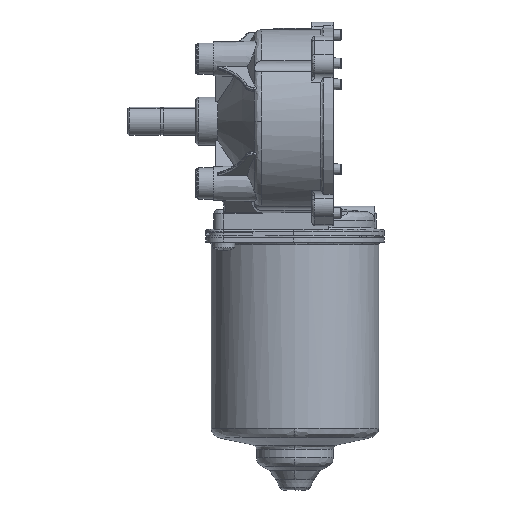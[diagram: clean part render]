
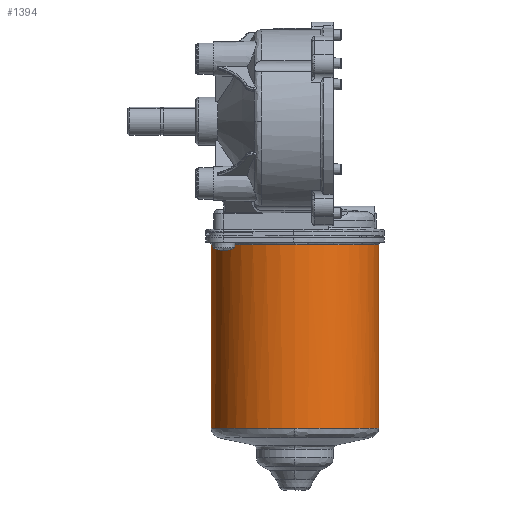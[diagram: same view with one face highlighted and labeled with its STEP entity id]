
A CAD part, front view. The second image highlights one B-rep face of the part: STEP entity #1394.
In plain terms, the highlighted cylindrical face has radius 29.599 mm (diameter 59.199 mm), a partial arc.
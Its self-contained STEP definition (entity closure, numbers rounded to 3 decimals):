
#899 = EDGE_LOOP ( 'NONE', ( #10580, #10876, #10179, #10550, #10863, #9947 ) ) ;
#1394 = ADVANCED_FACE ( 'NONE', ( #12645 ), #13309, .T. ) ;
#5483 = EDGE_CURVE ( 'NONE', #9325, #9488, #12464, .T. ) ;
#5530 = AXIS2_PLACEMENT_3D ( 'NONE', #7653, #7655, #7656 ) ;
#5978 = AXIS2_PLACEMENT_3D ( 'NONE', #22645, #22421, #20189 ) ;
#6404 = CARTESIAN_POINT ( 'NONE',  ( 24.999, 1.401, -108.318 ) ) ;
#6437 = CARTESIAN_POINT ( 'NONE',  ( -4.6, 31.001, -43.7 ) ) ;
#6556 = CARTESIAN_POINT ( 'NONE',  ( -4.6, 31.001, -108.318 ) ) ;
#6897 = CARTESIAN_POINT ( 'NONE',  ( 24.999, 1.401, -43.7 ) ) ;
#6973 = CARTESIAN_POINT ( 'NONE',  ( 54.599, 31.001, -108.318 ) ) ;
#7177 = CARTESIAN_POINT ( 'NONE',  ( 54.599, 31.001, -43.7 ) ) ;
#7653 = CARTESIAN_POINT ( 'NONE',  ( 24.999, 31.001, -43.7 ) ) ;
#7655 = DIRECTION ( 'NONE',  ( 0., 0., -1. ) ) ;
#7656 = DIRECTION ( 'NONE',  ( 0., -1., 0. ) ) ;
#8059 = B_SPLINE_CURVE_WITH_KNOTS ( 'NONE', 3,
 ( #32020, #31336, #31330, #31329, #31327, #31343, #32131, #32125, #31311, #32133, #32130, #32129, #32134, #32128, #32088, #31485, #32127, #32132 ),
 .UNSPECIFIED., .F., .F.,
 ( 4, 2, 2, 2, 2, 2, 2, 2, 4 ),
 ( 0.5, 0.563, 0.625, 0.688, 0.75, 0.813, 0.875, 0.938, 1. ),
 .UNSPECIFIED. ) ;
#8266 = B_SPLINE_CURVE_WITH_KNOTS ( 'NONE', 3,
 ( #24822, #24818, #24817, #24816, #24815, #24814, #24813, #24812, #24811, #24810, #24809, #24808, #24807, #24806, #24805, #24804, #24800, #24799 ),
 .UNSPECIFIED., .F., .F.,
 ( 4, 2, 2, 2, 2, 2, 2, 2, 4 ),
 ( 0., 0.062, 0.125, 0.187, 0.25, 0.313, 0.375, 0.437, 0.5 ),
 .UNSPECIFIED. ) ;
#9281 = VERTEX_POINT ( 'NONE', #6897 ) ;
#9297 = VERTEX_POINT ( 'NONE', #6973 ) ;
#9325 = VERTEX_POINT ( 'NONE', #6556 ) ;
#9376 = VERTEX_POINT ( 'NONE', #6404 ) ;
#9478 = VERTEX_POINT ( 'NONE', #7177 ) ;
#9488 = VERTEX_POINT ( 'NONE', #6437 ) ;
#9947 = ORIENTED_EDGE ( 'NONE', *, *, #26063, .T. ) ;
#10179 = ORIENTED_EDGE ( 'NONE', *, *, #26155, .T. ) ;
#10550 = ORIENTED_EDGE ( 'NONE', *, *, #25514, .T. ) ;
#10580 = ORIENTED_EDGE ( 'NONE', *, *, #5483, .F. ) ;
#10863 = ORIENTED_EDGE ( 'NONE', *, *, #25424, .T. ) ;
#10876 = ORIENTED_EDGE ( 'NONE', *, *, #26065, .T. ) ;
#11355 = VECTOR ( 'NONE', #18982, 1000. ) ;
#11523 = CIRCLE ( 'NONE', #5530, 29.599 ) ;
#11845 = LINE ( 'NONE', #17873, #11355 ) ;
#12464 = LINE ( 'NONE', #14134, #12640 ) ;
#12640 = VECTOR ( 'NONE', #14184, 1000. ) ;
#12645 = FACE_OUTER_BOUND ( 'NONE', #899, .T. ) ;
#13309 = CYLINDRICAL_SURFACE ( 'NONE', #5978, 29.599 ) ;
#14134 = CARTESIAN_POINT ( 'NONE',  ( -4.6, 31.001, -108.318 ) ) ;
#14184 = DIRECTION ( 'NONE',  ( 0., 0., 1. ) ) ;
#15508 = CIRCLE ( 'NONE', #28257, 29.599 ) ;
#17873 = CARTESIAN_POINT ( 'NONE',  ( 54.599, 31.001, -108.318 ) ) ;
#18982 = DIRECTION ( 'NONE',  ( 0., 0., 1. ) ) ;
#20189 = DIRECTION ( 'NONE',  ( 1., 0., 0. ) ) ;
#22421 = DIRECTION ( 'NONE',  ( 0., 0., 1. ) ) ;
#22645 = CARTESIAN_POINT ( 'NONE',  ( 24.999, 31.001, -108.318 ) ) ;
#24799 = CARTESIAN_POINT ( 'NONE',  ( 54.599, 31.001, -108.318 ) ) ;
#24800 = CARTESIAN_POINT ( 'NONE',  ( 54.599, 29.063, -108.318 ) ) ;
#24804 = CARTESIAN_POINT ( 'NONE',  ( 54.408, 27.126, -108.318 ) ) ;
#24805 = CARTESIAN_POINT ( 'NONE',  ( 53.652, 23.326, -108.318 ) ) ;
#24806 = CARTESIAN_POINT ( 'NONE',  ( 53.087, 21.463, -108.318 ) ) ;
#24807 = CARTESIAN_POINT ( 'NONE',  ( 51.604, 17.884, -108.318 ) ) ;
#24808 = CARTESIAN_POINT ( 'NONE',  ( 50.687, 16.167, -108.318 ) ) ;
#24809 = CARTESIAN_POINT ( 'NONE',  ( 48.534, 12.945, -108.318 ) ) ;
#24810 = CARTESIAN_POINT ( 'NONE',  ( 47.299, 11.44, -108.318 ) ) ;
#24811 = CARTESIAN_POINT ( 'NONE',  ( 44.559, 8.701, -108.318 ) ) ;
#24812 = CARTESIAN_POINT ( 'NONE',  ( 43.055, 7.466, -108.318 ) ) ;
#24813 = CARTESIAN_POINT ( 'NONE',  ( 39.833, 5.313, -108.318 ) ) ;
#24814 = CARTESIAN_POINT ( 'NONE',  ( 38.116, 4.396, -108.318 ) ) ;
#24815 = CARTESIAN_POINT ( 'NONE',  ( 34.537, 2.913, -108.318 ) ) ;
#24816 = CARTESIAN_POINT ( 'NONE',  ( 32.674, 2.348, -108.318 ) ) ;
#24817 = CARTESIAN_POINT ( 'NONE',  ( 28.874, 1.592, -108.318 ) ) ;
#24818 = CARTESIAN_POINT ( 'NONE',  ( 26.936, 1.401, -108.318 ) ) ;
#24822 = CARTESIAN_POINT ( 'NONE',  ( 24.999, 1.401, -108.318 ) ) ;
#25424 = EDGE_CURVE ( 'NONE', #9478, #9281, #11523, .T. ) ;
#25514 = EDGE_CURVE ( 'NONE', #9297, #9478, #11845, .T. ) ;
#26063 = EDGE_CURVE ( 'NONE', #9281, #9488, #15508, .T. ) ;
#26065 = EDGE_CURVE ( 'NONE', #9325, #9376, #8059, .T. ) ;
#26155 = EDGE_CURVE ( 'NONE', #9376, #9297, #8266, .T. ) ;
#28257 = AXIS2_PLACEMENT_3D ( 'NONE', #31572, #31542, #31512 ) ;
#31311 = CARTESIAN_POINT ( 'NONE',  ( 2.699, 11.44, -108.318 ) ) ;
#31327 = CARTESIAN_POINT ( 'NONE',  ( -3.089, 21.463, -108.318 ) ) ;
#31329 = CARTESIAN_POINT ( 'NONE',  ( -3.654, 23.326, -108.318 ) ) ;
#31330 = CARTESIAN_POINT ( 'NONE',  ( -4.41, 27.126, -108.318 ) ) ;
#31336 = CARTESIAN_POINT ( 'NONE',  ( -4.6, 29.063, -108.318 ) ) ;
#31343 = CARTESIAN_POINT ( 'NONE',  ( -1.606, 17.884, -108.318 ) ) ;
#31485 = CARTESIAN_POINT ( 'NONE',  ( 21.125, 1.592, -108.318 ) ) ;
#31512 = DIRECTION ( 'NONE',  ( 0., -1., 0. ) ) ;
#31542 = DIRECTION ( 'NONE',  ( 0., 0., -1. ) ) ;
#31572 = CARTESIAN_POINT ( 'NONE',  ( 24.999, 31.001, -43.7 ) ) ;
#32020 = CARTESIAN_POINT ( 'NONE',  ( -4.6, 31.001, -108.318 ) ) ;
#32088 = CARTESIAN_POINT ( 'NONE',  ( 17.325, 2.348, -108.318 ) ) ;
#32125 = CARTESIAN_POINT ( 'NONE',  ( 1.464, 12.945, -108.318 ) ) ;
#32127 = CARTESIAN_POINT ( 'NONE',  ( 23.062, 1.401, -108.318 ) ) ;
#32128 = CARTESIAN_POINT ( 'NONE',  ( 15.462, 2.913, -108.318 ) ) ;
#32129 = CARTESIAN_POINT ( 'NONE',  ( 10.165, 5.313, -108.318 ) ) ;
#32130 = CARTESIAN_POINT ( 'NONE',  ( 6.944, 7.466, -108.318 ) ) ;
#32131 = CARTESIAN_POINT ( 'NONE',  ( -0.688, 16.167, -108.318 ) ) ;
#32132 = CARTESIAN_POINT ( 'NONE',  ( 24.999, 1.401, -108.318 ) ) ;
#32133 = CARTESIAN_POINT ( 'NONE',  ( 5.439, 8.701, -108.318 ) ) ;
#32134 = CARTESIAN_POINT ( 'NONE',  ( 11.882, 4.396, -108.318 ) ) ;
